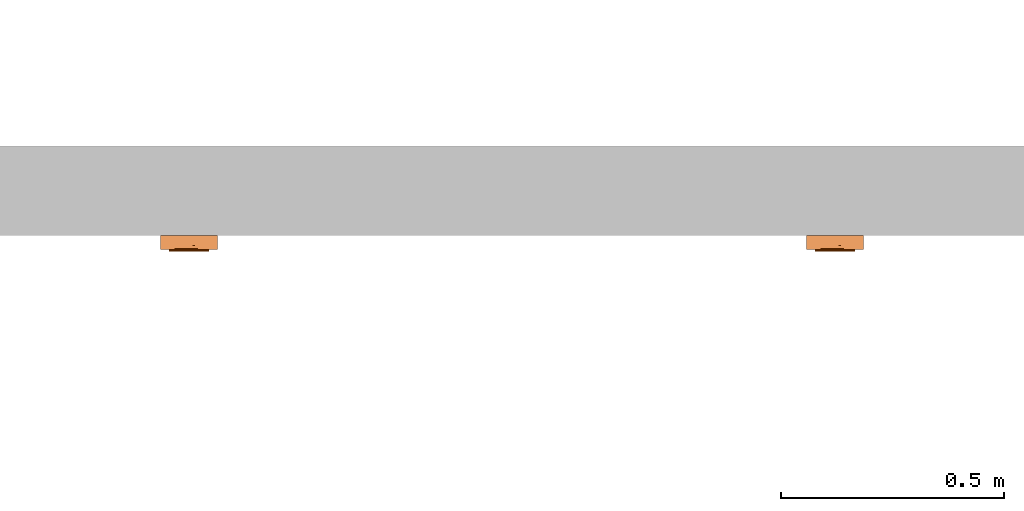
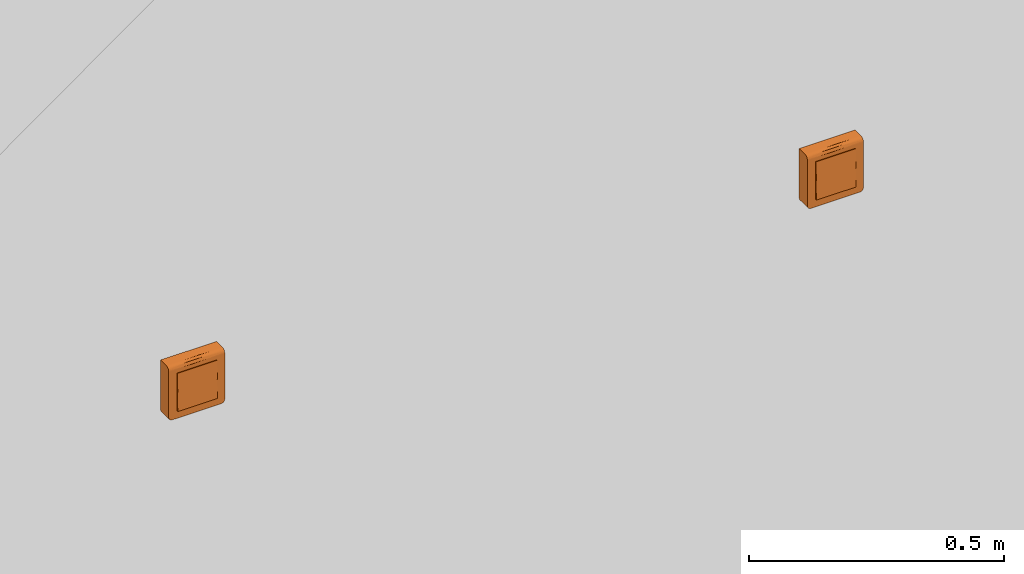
# One storey, part 173 of 197: 2 proxies.
"""IFC2X3 building model written with IfcOpenShell, lengths in metres."""

from ifc_helpers import new_model, entity, si_unit, converted_unit, direction, frame, origin, place, context, subcontext, project, spatial, faceted_brep, source, transform, mapped, material, material_list, type_object, type_shapes, element, save


model = new_model("IFC2X3")

# Units and contexts
model_context = context("Model", 3, precision=1e-05, world=origin(), true_north=direction((6.123031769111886e-17, 1.0)))
body_context = subcontext(model_context, "Body", "Model", "MODEL_VIEW")
ifc_project = project(units=[si_unit("LENGTHUNIT", "METRE"), converted_unit("PLANEANGLEUNIT", "DEGREE", entity("IfcPlaneAngleMeasure", 0.017453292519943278), si_unit("PLANEANGLEUNIT", "RADIAN"), dimensions=[0, 0, 0, 0, 0, 0, 0]), si_unit("AREAUNIT", "SQUARE_METRE")], contexts=[model_context])

# Site, building, storey
site_placement = place(None, origin())
site = spatial("IfcSite", under=ifc_project, at=site_placement, Name="Default", CompositionType="ELEMENT")
building_placement = place(site_placement, origin())
building = spatial("IfcBuilding", under=site, at=building_placement, CompositionType="ELEMENT")
storey_placement = place(building_placement, origin())
storey = spatial("IfcBuildingStorey", under=building, at=storey_placement, Name="Niveau 0", CompositionType="ELEMENT", Elevation=0.0)

# Proxies
ifc_material_1 = material(Name="BETCE-CADRE-BLANC")
ifc_material_2 = material(Name="BETCE-DOIGT-BLANC")
ifc_material_3 = material(Name="BETCE-ENJOLIVEUR-BLANC")
ifc_material_list = material_list([ifc_material_1, ifc_material_2, ifc_material_3])
building_element_proxy_type_1 = type_object("IfcBuildingElementProxyType", Name="Tableau commande 2x4 modules saillie:2 BP + 4 SA + 2 VV", PredefinedType="NOTDEFINED", material=ifc_material_list)
shared_shape_1 = source(origin(), body_context, "Body", "Brep", [
    faceted_brep([(0.06349999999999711, -0.022999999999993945, 0.0635), (-0.06350000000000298, -0.022999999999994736, 0.0635), (-0.06350000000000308, -0.022999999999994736, -0.055499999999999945), (-0.06322740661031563, -0.022999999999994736, -0.05757055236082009), (-0.06242820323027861, -0.02299999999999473, -0.059499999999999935), (-0.06115685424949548, -0.022999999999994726, -0.06115685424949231), (-0.05950000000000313, -0.022999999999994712, -0.06242820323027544), (-0.05757055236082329, -0.0229999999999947, -0.06322740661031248), (-0.05550000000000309, -0.022999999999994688, -0.06350000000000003), (0.055499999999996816, -0.022999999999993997, -0.0635000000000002), (0.057570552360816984, -0.022999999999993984, -0.06322740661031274), (0.05949999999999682, -0.022999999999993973, -0.062428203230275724), (0.06115685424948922, -0.022999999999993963, -0.061156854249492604), (0.062428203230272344, -0.022999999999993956, -0.05950000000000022), (0.0632274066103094, -0.022999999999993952, -0.0575705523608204), (0.06349999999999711, -0.022999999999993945, -0.05550000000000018), (-0.05550000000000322, 0.0, -0.06349999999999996), (-0.05757055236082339, 0.0, -0.06322740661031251), (-0.05950000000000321, 0.0, -0.062428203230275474), (-0.06115685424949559, 0.0, -0.06115685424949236), (-0.06242820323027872, 0.0, -0.05949999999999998), (-0.06322740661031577, 0.0, -0.05757055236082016), (-0.06350000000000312, 0.0, -0.055499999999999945), (-0.06350000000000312, 0.0, 0.0635), (0.06349999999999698, 0.0, 0.0635), (0.06349999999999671, 0.0, -0.05550000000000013), (0.06322740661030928, 0.0, -0.0575705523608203), (0.06242820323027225, 0.0, -0.05950000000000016), (0.06115685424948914, 0.0, -0.061156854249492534), (0.059499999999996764, 0.0, -0.062428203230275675), (0.05757055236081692, 0.0, -0.06322740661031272), (0.055499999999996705, 0.0, -0.0635)], [[[0, 1, 2, 3, 4, 5, 6, 7, 8, 9, 10, 11, 12, 13, 14, 15]], [[16, 17, 18, 19, 20, 21, 22, 23, 24, 25, 26, 27, 28, 29, 30, 31]], [[2, 1, 23, 22]], [[9, 8, 16, 31]], [[0, 15, 25, 24]], [[1, 0, 24, 23]], [[25, 15, 14, 26]], [[26, 14, 13, 27]], [[27, 13, 12, 28]], [[29, 11, 10, 30]], [[30, 10, 9, 31]], [[28, 12, 11, 29]], [[17, 16, 8, 7]], [[18, 17, 7, 6]], [[19, 18, 6, 5]], [[20, 19, 5, 4]], [[21, 20, 4, 3]], [[22, 21, 3, 2]]]),
    faceted_brep([(0.022499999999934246, -0.022999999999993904, -0.045000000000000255), (0.022499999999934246, -0.022999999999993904, 0.0), (0.04499999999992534, -0.022999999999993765, 0.0), (0.04499999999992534, -0.022999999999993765, -0.045000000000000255), (0.022499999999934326, -0.03574999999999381, -0.045000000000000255), (0.02249999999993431, -0.033499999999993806, 0.0), (0.044999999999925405, -0.03349999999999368, 0.0), (0.04499999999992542, -0.03574999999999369, -0.045000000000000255)], [[[0, 1, 2, 3]], [[1, 0, 4, 5]], [[2, 1, 5, 6]], [[3, 2, 6, 7]], [[0, 3, 7, 4]], [[5, 4, 7, 6]]]),
    faceted_brep([(0.0, -0.022999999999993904, -0.04500000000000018), (0.0, -0.022999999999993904, 0.0), (0.02249999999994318, -0.022999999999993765, 0.0), (0.02249999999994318, -0.022999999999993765, -0.04500000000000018), (0.0, -0.03574999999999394, -0.04500000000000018), (0.0, -0.03349999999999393, 0.0), (0.022499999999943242, -0.033499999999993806, 0.0), (0.02249999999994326, -0.03574999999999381, -0.04500000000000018)], [[[0, 1, 2, 3]], [[1, 0, 4, 5]], [[2, 1, 5, 6]], [[3, 2, 6, 7]], [[0, 3, 7, 4]], [[5, 4, 7, 6]]]),
    faceted_brep([(-0.02250000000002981, -0.022999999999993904, -0.0450000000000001), (-0.02250000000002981, -0.022999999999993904, 0.0), (0.0, -0.022999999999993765, 0.0), (0.0, -0.022999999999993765, -0.0450000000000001), (-0.02250000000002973, -0.03574999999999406, -0.0450000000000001), (-0.022500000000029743, -0.03349999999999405, 0.0), (0.0, -0.033499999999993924, 0.0), (0.0, -0.03574999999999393, -0.0450000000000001)], [[[0, 1, 2, 3]], [[1, 0, 4, 5]], [[2, 1, 5, 6]], [[3, 2, 6, 7]], [[0, 3, 7, 4]], [[5, 4, 7, 6]]]),
    faceted_brep([(-0.04500000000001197, -0.022999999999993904, -0.045000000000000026), (-0.04500000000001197, -0.022999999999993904, 0.0), (-0.022500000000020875, -0.022999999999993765, 0.0), (-0.022500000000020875, -0.022999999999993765, -0.045000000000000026), (-0.04500000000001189, -0.03574999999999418, -0.045000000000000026), (-0.0450000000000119, -0.03349999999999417, 0.0), (-0.02250000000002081, -0.03349999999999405, 0.0), (-0.022500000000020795, -0.03574999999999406, -0.045000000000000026)], [[[0, 1, 2, 3]], [[1, 0, 4, 5]], [[2, 1, 5, 6]], [[3, 2, 6, 7]], [[0, 3, 7, 4]], [[5, 4, 7, 6]]]),
    faceted_brep([(0.02249999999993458, -0.03349999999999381, 0.04499999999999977), (0.022499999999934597, -0.03574999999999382, 0.0), (0.04499999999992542, -0.0357499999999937, 0.0), (0.044999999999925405, -0.03349999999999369, 0.04499999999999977), (0.022499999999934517, -0.022999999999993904, 0.0), (0.022499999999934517, -0.022999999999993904, 0.04499999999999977), (0.04499999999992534, -0.022999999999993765, 0.04499999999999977), (0.04499999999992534, -0.022999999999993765, 0.0)], [[[0, 1, 2, 3]], [[4, 5, 6, 7]], [[5, 4, 1, 0]], [[6, 5, 0, 3]], [[7, 6, 3, 2]], [[4, 7, 2, 1]]]),
    faceted_brep([(0.0, -0.03349999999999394, 0.044999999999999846), (0.0, -0.035749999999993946, 0.0), (0.02249999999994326, -0.03574999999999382, 0.0), (0.022499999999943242, -0.03349999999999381, 0.044999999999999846), (0.0, -0.022999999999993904, 0.0), (0.0, -0.022999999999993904, 0.044999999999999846), (0.02249999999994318, -0.022999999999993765, 0.04499999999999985), (0.02249999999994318, -0.022999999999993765, 0.0)], [[[0, 1, 2, 3]], [[4, 5, 6, 7]], [[5, 4, 1, 0]], [[6, 5, 0, 3]], [[7, 6, 3, 2]], [[4, 7, 2, 1]]]),
    faceted_brep([(-0.022500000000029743, -0.03349999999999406, 0.04499999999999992), (-0.02250000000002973, -0.03574999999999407, 0.0), (0.0, -0.03574999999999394, 0.0), (0.0, -0.03349999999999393, 0.04499999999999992), (-0.02250000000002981, -0.022999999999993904, 0.0), (-0.02250000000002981, -0.022999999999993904, 0.04499999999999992), (0.0, -0.022999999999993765, 0.04499999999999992), (0.0, -0.022999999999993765, 0.0)], [[[0, 1, 2, 3]], [[4, 5, 6, 7]], [[5, 4, 1, 0]], [[6, 5, 0, 3]], [[7, 6, 3, 2]], [[4, 7, 2, 1]]]),
    faceted_brep([(-0.04500000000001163, -0.03349999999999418, 0.045), (-0.045000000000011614, -0.03574999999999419, 0.0), (-0.022500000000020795, -0.035749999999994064, 0.0), (-0.02250000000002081, -0.03349999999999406, 0.045), (-0.0450000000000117, -0.022999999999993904, 0.0), (-0.0450000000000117, -0.022999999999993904, 0.045), (-0.022500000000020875, -0.022999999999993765, 0.045000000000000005), (-0.022500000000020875, -0.022999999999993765, 0.0)], [[[0, 1, 2, 3]], [[4, 5, 6, 7]], [[5, 4, 1, 0]], [[6, 5, 0, 3]], [[7, 6, 3, 2]], [[4, 7, 2, 1]]]),
    faceted_brep([(0.06349999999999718, -0.03199999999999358, -0.055500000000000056), (0.063499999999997, -0.03199999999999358, 0.05450000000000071), (0.04499999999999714, -0.03199999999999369, -0.045000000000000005), (0.05549999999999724, -0.03199999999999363, -0.06350000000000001), (0.057570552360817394, -0.03199999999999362, -0.06322740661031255), (0.06322740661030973, -0.03199999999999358, -0.05757055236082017), (0.04499999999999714, -0.03199999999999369, 0.045), (-0.04500000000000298, -0.031999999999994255, 0.045000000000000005), (-0.011124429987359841, -0.03199999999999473, 0.054500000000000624), (-0.06350000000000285, -0.03199999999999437, 0.05450000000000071), (-0.04500000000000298, -0.031999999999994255, -0.045000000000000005), (-0.06350000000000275, -0.03199999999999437, -0.05550000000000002), (-0.05550000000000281, -0.03199999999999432, -0.06350000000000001), (-0.05757055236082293, -0.03199999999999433, -0.06322740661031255), (-0.06322740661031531, -0.031999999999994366, -0.05757055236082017), (-0.05950000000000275, -0.031999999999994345, -0.062428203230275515), (-0.06242820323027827, -0.03199999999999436, -0.05950000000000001), (-0.06115685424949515, -0.03199999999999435, -0.06115685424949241), (0.05949999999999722, -0.0319999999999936, -0.062428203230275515), (0.062428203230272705, -0.03199999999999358, -0.05949999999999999), (0.06115685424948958, -0.031999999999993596, -0.061156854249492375), (-0.06350000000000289, -0.02299999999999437, -0.05550000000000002), (-0.06350000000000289, -0.02299999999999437, 0.06350000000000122), (-0.04500000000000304, -0.02299999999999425, 0.045000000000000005), (-0.04500000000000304, -0.02299999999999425, -0.045000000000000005), (-0.05550000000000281, -0.02299999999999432, -0.06350000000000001), (-0.06322740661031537, -0.022999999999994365, -0.05757055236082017), (0.04499999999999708, -0.022999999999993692, 0.045000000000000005), (0.011124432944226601, -0.022999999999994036, 0.06350000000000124), (0.06349999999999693, -0.022999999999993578, 0.0635), (0.06349999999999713, -0.022999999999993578, -0.05550000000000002), (0.04499999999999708, -0.022999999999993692, -0.045000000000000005), (0.05549999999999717, -0.02299999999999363, -0.06350000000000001), (0.06322740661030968, -0.022999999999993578, -0.05757055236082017), (0.05757055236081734, -0.022999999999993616, -0.06322740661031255), (0.06242820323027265, -0.022999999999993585, -0.05949999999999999), (0.05949999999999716, -0.022999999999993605, -0.062428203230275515), (0.06115685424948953, -0.02299999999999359, -0.061156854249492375), (-0.05757055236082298, -0.02299999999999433, -0.06322740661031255), (-0.062428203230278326, -0.022999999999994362, -0.05950000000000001), (-0.05950000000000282, -0.022999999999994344, -0.062428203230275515), (-0.0611568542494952, -0.02299999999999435, -0.06115685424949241), (0.06349999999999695, -0.025329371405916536, 0.06319333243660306), (0.06349999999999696, -0.02749999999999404, 0.06229422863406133), (0.06349999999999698, -0.029363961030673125, 0.060863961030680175), (0.06349999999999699, -0.03079422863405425, 0.05900000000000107), (0.06349999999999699, -0.03169333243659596, 0.05682937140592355), (-0.06350000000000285, -0.03169333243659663, 0.0568293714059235), (-0.06350000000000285, -0.030794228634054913, 0.059000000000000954), (-0.06350000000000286, -0.029363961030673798, 0.06086396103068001), (-0.06350000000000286, -0.027499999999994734, 0.062294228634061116), (-0.06350000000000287, -0.025329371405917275, 0.06319333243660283), (-0.010857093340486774, -0.029120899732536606, 0.06109807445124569)], [[[0, 1, 2]], [[3, 0, 2]], [[0, 3, 4]], [[5, 0, 4]], [[2, 1, 6]], [[1, 7, 6]], [[7, 1, 8]], [[7, 8, 9]], [[10, 7, 9]], [[11, 10, 9]], [[12, 10, 11]], [[12, 11, 13]], [[13, 11, 14]], [[15, 13, 14]], [[16, 15, 14]], [[15, 16, 17]], [[10, 12, 3]], [[2, 10, 3]], [[5, 4, 18]], [[5, 18, 19]], [[20, 19, 18]], [[21, 22, 23]], [[24, 21, 23]], [[25, 21, 24]], [[26, 21, 25]], [[22, 27, 23]], [[27, 22, 28]], [[27, 28, 29]], [[30, 27, 29]], [[31, 27, 30]], [[32, 31, 30]], [[32, 30, 33]], [[32, 33, 34]], [[33, 35, 34]], [[35, 36, 34]], [[36, 35, 37]], [[31, 32, 25]], [[26, 25, 38]], [[24, 31, 25]], [[39, 26, 38]], [[39, 38, 40]], [[41, 39, 40]], [[1, 0, 30, 29, 42, 43, 44, 45, 46]], [[33, 30, 0, 5]], [[35, 33, 5, 19]], [[37, 35, 19, 20]], [[36, 37, 20, 18]], [[34, 36, 18, 4]], [[32, 34, 4, 3]], [[25, 32, 3, 12]], [[38, 25, 12, 13]], [[40, 38, 13, 15]], [[41, 40, 15, 17]], [[39, 41, 17, 16]], [[26, 39, 16, 14]], [[21, 26, 14, 11]], [[22, 21, 11, 9, 47, 48, 49, 50, 51]], [[24, 23, 7, 10]], [[31, 24, 10, 2]], [[27, 31, 2, 6]], [[23, 27, 6, 7]], [[52, 8, 45]], [[47, 9, 8]], [[1, 46, 8]], [[44, 52, 45]], [[46, 45, 8]], [[50, 52, 51]], [[48, 47, 8]], [[28, 52, 43]], [[48, 52, 49]], [[42, 29, 28]], [[28, 22, 51]], [[48, 8, 52]], [[28, 43, 42]], [[44, 43, 52]], [[52, 50, 49]], [[52, 28, 51]]]),
])
type_shapes(building_element_proxy_type_1, [shared_shape_1])
proxy_1_placement = place(storey_placement, frame((-333.1867796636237, 116.01635778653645, 1.1)))
element("IfcBuildingElementProxy", 1, at=proxy_1_placement, inside=storey, type_object=building_element_proxy_type_1, material=ifc_material_list, Name="Tableau commande 2x4 modules saillie:2 BP + 4 SA + 2 VV", ObjectType="Tableau commande 2x4 modules saillie:2 BP + 4 SA + 2 VV", context=body_context, shape_type="MappedRepresentation", body=[
    mapped(shared_shape_1, transform((0.0, 0.0, 0.0), scale=1.0)),
])
building_element_proxy_type_2 = type_object("IfcBuildingElementProxyType", Name="Tableau commande 2x4 modules saillie:4 BP + 2 SA + 2 VV", PredefinedType="NOTDEFINED", material=ifc_material_list)
shared_shape_2 = source(origin(), body_context, "Body", "Brep", [
    faceted_brep([(0.06349999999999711, -0.022999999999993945, 0.0635), (-0.06350000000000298, -0.022999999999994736, 0.0635), (-0.06350000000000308, -0.022999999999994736, -0.055499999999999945), (-0.06322740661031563, -0.022999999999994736, -0.05757055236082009), (-0.06242820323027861, -0.02299999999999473, -0.059499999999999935), (-0.06115685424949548, -0.022999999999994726, -0.06115685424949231), (-0.05950000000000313, -0.022999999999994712, -0.06242820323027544), (-0.05757055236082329, -0.0229999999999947, -0.06322740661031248), (-0.05550000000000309, -0.022999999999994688, -0.06350000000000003), (0.055499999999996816, -0.022999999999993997, -0.0635000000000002), (0.057570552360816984, -0.022999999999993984, -0.06322740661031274), (0.05949999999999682, -0.022999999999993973, -0.062428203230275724), (0.06115685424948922, -0.022999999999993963, -0.061156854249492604), (0.062428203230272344, -0.022999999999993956, -0.05950000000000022), (0.0632274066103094, -0.022999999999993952, -0.0575705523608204), (0.06349999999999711, -0.022999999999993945, -0.05550000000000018), (-0.05550000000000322, 0.0, -0.06349999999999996), (-0.05757055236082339, 0.0, -0.06322740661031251), (-0.05950000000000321, 0.0, -0.062428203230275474), (-0.06115685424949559, 0.0, -0.06115685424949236), (-0.06242820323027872, 0.0, -0.05949999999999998), (-0.06322740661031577, 0.0, -0.05757055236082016), (-0.06350000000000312, 0.0, -0.055499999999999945), (-0.06350000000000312, 0.0, 0.0635), (0.06349999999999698, 0.0, 0.0635), (0.06349999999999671, 0.0, -0.05550000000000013), (0.06322740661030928, 0.0, -0.0575705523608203), (0.06242820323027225, 0.0, -0.05950000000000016), (0.06115685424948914, 0.0, -0.061156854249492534), (0.059499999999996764, 0.0, -0.062428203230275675), (0.05757055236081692, 0.0, -0.06322740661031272), (0.055499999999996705, 0.0, -0.0635)], [[[0, 1, 2, 3, 4, 5, 6, 7, 8, 9, 10, 11, 12, 13, 14, 15]], [[16, 17, 18, 19, 20, 21, 22, 23, 24, 25, 26, 27, 28, 29, 30, 31]], [[2, 1, 23, 22]], [[9, 8, 16, 31]], [[0, 15, 25, 24]], [[1, 0, 24, 23]], [[25, 15, 14, 26]], [[26, 14, 13, 27]], [[27, 13, 12, 28]], [[29, 11, 10, 30]], [[30, 10, 9, 31]], [[28, 12, 11, 29]], [[17, 16, 8, 7]], [[18, 17, 7, 6]], [[19, 18, 6, 5]], [[20, 19, 5, 4]], [[21, 20, 4, 3]], [[22, 21, 3, 2]]]),
    faceted_brep([(0.022499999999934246, -0.022999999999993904, -0.045000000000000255), (0.022499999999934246, -0.022999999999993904, 0.0), (0.04499999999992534, -0.022999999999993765, 0.0), (0.04499999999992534, -0.022999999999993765, -0.045000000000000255), (0.022499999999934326, -0.03574999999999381, -0.045000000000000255), (0.02249999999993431, -0.033499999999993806, 0.0), (0.044999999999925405, -0.03349999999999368, 0.0), (0.04499999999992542, -0.03574999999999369, -0.045000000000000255)], [[[0, 1, 2, 3]], [[1, 0, 4, 5]], [[2, 1, 5, 6]], [[3, 2, 6, 7]], [[0, 3, 7, 4]], [[5, 4, 7, 6]]]),
    faceted_brep([(0.0, -0.022999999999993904, -0.04500000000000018), (0.0, -0.022999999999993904, 0.0), (0.02249999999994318, -0.022999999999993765, 0.0), (0.02249999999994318, -0.022999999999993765, -0.04500000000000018), (0.0, -0.03574999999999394, -0.04500000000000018), (0.0, -0.03349999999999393, 0.0), (0.022499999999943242, -0.033499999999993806, 0.0), (0.02249999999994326, -0.03574999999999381, -0.04500000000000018)], [[[0, 1, 2, 3]], [[1, 0, 4, 5]], [[2, 1, 5, 6]], [[3, 2, 6, 7]], [[0, 3, 7, 4]], [[5, 4, 7, 6]]]),
    faceted_brep([(-0.02250000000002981, -0.022999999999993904, -0.0450000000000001), (-0.02250000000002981, -0.022999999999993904, 0.0), (0.0, -0.022999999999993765, 0.0), (0.0, -0.022999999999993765, -0.0450000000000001), (-0.02250000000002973, -0.03574999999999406, -0.0450000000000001), (-0.022500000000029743, -0.03349999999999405, 0.0), (0.0, -0.033499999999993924, 0.0), (0.0, -0.03574999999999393, -0.0450000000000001)], [[[0, 1, 2, 3]], [[1, 0, 4, 5]], [[2, 1, 5, 6]], [[3, 2, 6, 7]], [[0, 3, 7, 4]], [[5, 4, 7, 6]]]),
    faceted_brep([(-0.04500000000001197, -0.022999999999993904, -0.045000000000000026), (-0.04500000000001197, -0.022999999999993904, 0.0), (-0.022500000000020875, -0.022999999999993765, 0.0), (-0.022500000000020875, -0.022999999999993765, -0.045000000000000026), (-0.04500000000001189, -0.03574999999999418, -0.045000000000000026), (-0.0450000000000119, -0.03349999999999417, 0.0), (-0.02250000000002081, -0.03349999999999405, 0.0), (-0.022500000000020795, -0.03574999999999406, -0.045000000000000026)], [[[0, 1, 2, 3]], [[1, 0, 4, 5]], [[2, 1, 5, 6]], [[3, 2, 6, 7]], [[0, 3, 7, 4]], [[5, 4, 7, 6]]]),
    faceted_brep([(0.02249999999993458, -0.03349999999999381, 0.04499999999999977), (0.022499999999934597, -0.03574999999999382, 0.0), (0.04499999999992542, -0.0357499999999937, 0.0), (0.044999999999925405, -0.03349999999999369, 0.04499999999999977), (0.022499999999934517, -0.022999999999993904, 0.0), (0.022499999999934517, -0.022999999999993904, 0.04499999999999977), (0.04499999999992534, -0.022999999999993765, 0.04499999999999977), (0.04499999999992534, -0.022999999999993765, 0.0)], [[[0, 1, 2, 3]], [[4, 5, 6, 7]], [[5, 4, 1, 0]], [[6, 5, 0, 3]], [[7, 6, 3, 2]], [[4, 7, 2, 1]]]),
    faceted_brep([(0.0, -0.03349999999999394, 0.044999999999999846), (0.0, -0.035749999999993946, 0.0), (0.02249999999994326, -0.03574999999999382, 0.0), (0.022499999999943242, -0.03349999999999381, 0.044999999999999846), (0.0, -0.022999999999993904, 0.0), (0.0, -0.022999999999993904, 0.044999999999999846), (0.02249999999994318, -0.022999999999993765, 0.04499999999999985), (0.02249999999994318, -0.022999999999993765, 0.0)], [[[0, 1, 2, 3]], [[4, 5, 6, 7]], [[5, 4, 1, 0]], [[6, 5, 0, 3]], [[7, 6, 3, 2]], [[4, 7, 2, 1]]]),
    faceted_brep([(-0.022500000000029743, -0.03349999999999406, 0.04499999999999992), (-0.02250000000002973, -0.03574999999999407, 0.0), (0.0, -0.03574999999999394, 0.0), (0.0, -0.03349999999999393, 0.04499999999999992), (-0.02250000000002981, -0.022999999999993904, 0.0), (-0.02250000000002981, -0.022999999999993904, 0.04499999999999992), (0.0, -0.022999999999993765, 0.04499999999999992), (0.0, -0.022999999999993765, 0.0)], [[[0, 1, 2, 3]], [[4, 5, 6, 7]], [[5, 4, 1, 0]], [[6, 5, 0, 3]], [[7, 6, 3, 2]], [[4, 7, 2, 1]]]),
    faceted_brep([(-0.04500000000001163, -0.03349999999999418, 0.045), (-0.045000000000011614, -0.03574999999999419, 0.0), (-0.022500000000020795, -0.035749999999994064, 0.0), (-0.02250000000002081, -0.03349999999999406, 0.045), (-0.0450000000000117, -0.022999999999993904, 0.0), (-0.0450000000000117, -0.022999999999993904, 0.045), (-0.022500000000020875, -0.022999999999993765, 0.045000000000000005), (-0.022500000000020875, -0.022999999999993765, 0.0)], [[[0, 1, 2, 3]], [[4, 5, 6, 7]], [[5, 4, 1, 0]], [[6, 5, 0, 3]], [[7, 6, 3, 2]], [[4, 7, 2, 1]]]),
    faceted_brep([(0.06349999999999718, -0.03199999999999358, -0.055500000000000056), (0.063499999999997, -0.03199999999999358, 0.05450000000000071), (0.04499999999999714, -0.03199999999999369, -0.045000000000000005), (0.05549999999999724, -0.03199999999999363, -0.06350000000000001), (0.057570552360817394, -0.03199999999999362, -0.06322740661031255), (0.06322740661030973, -0.03199999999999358, -0.05757055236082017), (0.04499999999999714, -0.03199999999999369, 0.045), (-0.04500000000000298, -0.031999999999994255, 0.045000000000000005), (-0.011124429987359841, -0.03199999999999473, 0.054500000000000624), (-0.06350000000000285, -0.03199999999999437, 0.05450000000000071), (-0.04500000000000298, -0.031999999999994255, -0.045000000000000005), (-0.06350000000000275, -0.03199999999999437, -0.05550000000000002), (-0.05550000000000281, -0.03199999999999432, -0.06350000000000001), (-0.05757055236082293, -0.03199999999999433, -0.06322740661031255), (-0.06322740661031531, -0.031999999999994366, -0.05757055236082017), (-0.05950000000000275, -0.031999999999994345, -0.062428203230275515), (-0.06242820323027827, -0.03199999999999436, -0.05950000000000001), (-0.06115685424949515, -0.03199999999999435, -0.06115685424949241), (0.05949999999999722, -0.0319999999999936, -0.062428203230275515), (0.062428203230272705, -0.03199999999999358, -0.05949999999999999), (0.06115685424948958, -0.031999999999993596, -0.061156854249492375), (-0.06350000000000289, -0.02299999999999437, -0.05550000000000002), (-0.06350000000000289, -0.02299999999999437, 0.06350000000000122), (-0.04500000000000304, -0.02299999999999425, 0.045000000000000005), (-0.04500000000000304, -0.02299999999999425, -0.045000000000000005), (-0.05550000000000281, -0.02299999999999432, -0.06350000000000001), (-0.06322740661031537, -0.022999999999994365, -0.05757055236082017), (0.04499999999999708, -0.022999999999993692, 0.045000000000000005), (0.011124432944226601, -0.022999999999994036, 0.06350000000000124), (0.06349999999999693, -0.022999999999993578, 0.0635), (0.06349999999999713, -0.022999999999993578, -0.05550000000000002), (0.04499999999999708, -0.022999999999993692, -0.045000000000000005), (0.05549999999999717, -0.02299999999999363, -0.06350000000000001), (0.06322740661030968, -0.022999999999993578, -0.05757055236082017), (0.05757055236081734, -0.022999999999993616, -0.06322740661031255), (0.06242820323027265, -0.022999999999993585, -0.05949999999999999), (0.05949999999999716, -0.022999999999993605, -0.062428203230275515), (0.06115685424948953, -0.02299999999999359, -0.061156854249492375), (-0.05757055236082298, -0.02299999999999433, -0.06322740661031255), (-0.062428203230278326, -0.022999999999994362, -0.05950000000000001), (-0.05950000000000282, -0.022999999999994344, -0.062428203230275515), (-0.0611568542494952, -0.02299999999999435, -0.06115685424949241), (0.06349999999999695, -0.025329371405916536, 0.06319333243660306), (0.06349999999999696, -0.02749999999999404, 0.06229422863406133), (0.06349999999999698, -0.029363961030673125, 0.060863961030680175), (0.06349999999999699, -0.03079422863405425, 0.05900000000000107), (0.06349999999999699, -0.03169333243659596, 0.05682937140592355), (-0.06350000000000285, -0.03169333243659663, 0.0568293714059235), (-0.06350000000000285, -0.030794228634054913, 0.059000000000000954), (-0.06350000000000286, -0.029363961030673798, 0.06086396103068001), (-0.06350000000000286, -0.027499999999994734, 0.062294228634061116), (-0.06350000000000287, -0.025329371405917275, 0.06319333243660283), (-0.010857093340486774, -0.029120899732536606, 0.06109807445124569)], [[[0, 1, 2]], [[3, 0, 2]], [[0, 3, 4]], [[5, 0, 4]], [[2, 1, 6]], [[1, 7, 6]], [[7, 1, 8]], [[7, 8, 9]], [[10, 7, 9]], [[11, 10, 9]], [[12, 10, 11]], [[12, 11, 13]], [[13, 11, 14]], [[15, 13, 14]], [[16, 15, 14]], [[15, 16, 17]], [[10, 12, 3]], [[2, 10, 3]], [[5, 4, 18]], [[5, 18, 19]], [[20, 19, 18]], [[21, 22, 23]], [[24, 21, 23]], [[25, 21, 24]], [[26, 21, 25]], [[22, 27, 23]], [[27, 22, 28]], [[27, 28, 29]], [[30, 27, 29]], [[31, 27, 30]], [[32, 31, 30]], [[32, 30, 33]], [[32, 33, 34]], [[33, 35, 34]], [[35, 36, 34]], [[36, 35, 37]], [[31, 32, 25]], [[26, 25, 38]], [[24, 31, 25]], [[39, 26, 38]], [[39, 38, 40]], [[41, 39, 40]], [[1, 0, 30, 29, 42, 43, 44, 45, 46]], [[33, 30, 0, 5]], [[35, 33, 5, 19]], [[37, 35, 19, 20]], [[36, 37, 20, 18]], [[34, 36, 18, 4]], [[32, 34, 4, 3]], [[25, 32, 3, 12]], [[38, 25, 12, 13]], [[40, 38, 13, 15]], [[41, 40, 15, 17]], [[39, 41, 17, 16]], [[26, 39, 16, 14]], [[21, 26, 14, 11]], [[22, 21, 11, 9, 47, 48, 49, 50, 51]], [[24, 23, 7, 10]], [[31, 24, 10, 2]], [[27, 31, 2, 6]], [[23, 27, 6, 7]], [[52, 8, 45]], [[47, 9, 8]], [[1, 46, 8]], [[44, 52, 45]], [[46, 45, 8]], [[50, 52, 51]], [[48, 47, 8]], [[28, 52, 43]], [[48, 52, 49]], [[42, 29, 28]], [[28, 22, 51]], [[48, 8, 52]], [[28, 43, 42]], [[44, 43, 52]], [[52, 50, 49]], [[52, 28, 51]]]),
])
type_shapes(building_element_proxy_type_2, [shared_shape_2])
proxy_2_placement = place(storey_placement, frame((-331.740779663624, 116.01635778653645, 1.1)))
element("IfcBuildingElementProxy", 2, at=proxy_2_placement, inside=storey, type_object=building_element_proxy_type_2, material=ifc_material_list, Name="Tableau commande 2x4 modules saillie:4 BP + 2 SA + 2 VV", ObjectType="Tableau commande 2x4 modules saillie:4 BP + 2 SA + 2 VV", context=body_context, shape_type="MappedRepresentation", body=[
    mapped(shared_shape_2, transform((0.0, 0.0, 0.0), scale=1.0)),
])

save(model, "model.ifc")
